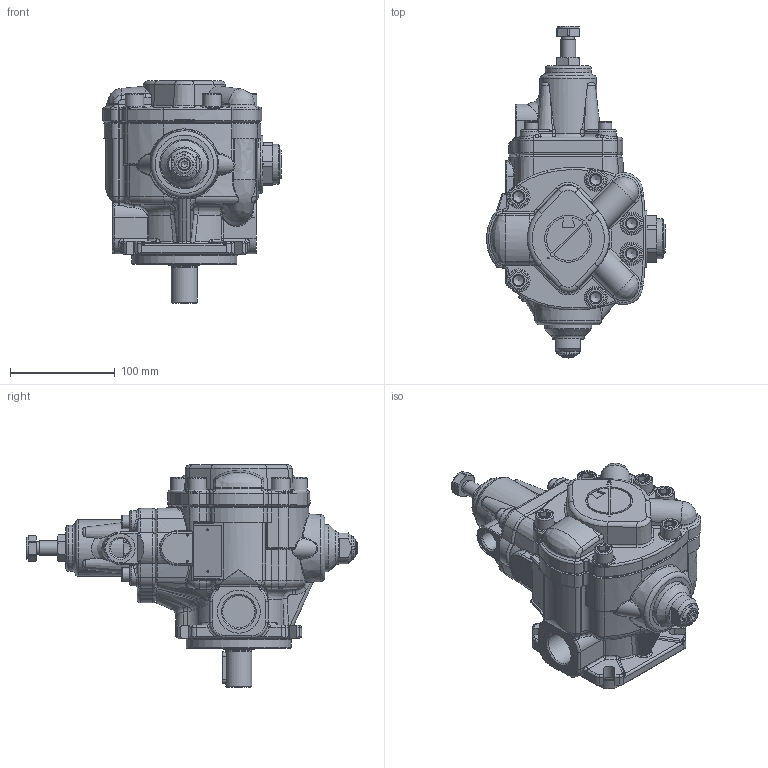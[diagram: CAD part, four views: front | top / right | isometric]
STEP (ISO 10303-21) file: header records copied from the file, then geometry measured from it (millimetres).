
FILE_DESCRIPTION(/* description */ (''),/* implementation_level */ '2;1');
FILE_NAME(/* name */ 'W:\Tecnico\Archivio\Berarma\Dimensioni Pompe\3D Export\Montaggio 3D semplificato\PLP-PHP 1\PLP 1.stp',/* time_stamp */ '2018-10-05T16:55:40+02:00',/* author */ ('marcop'),/* organization */ (''),/* preprocessor_version */ 'ST-DEVELOPER v17',/* originating_system */ 'Autodesk Inventor 2018',/* authorisation */ '');
FILE_SCHEMA (('AUTOMOTIVE_DESIGN { 1 0 10303 214 3 1 1 }'));
Length unit declared in the file: millimetre
Products named in the file (1): PLP-PHP 1_Shrinkwrap_1
Bounding box: 170.45 x 316.7 x 212 mm (x, y, z)
Volume: 2262843.5 mm3; surface area: 261447.5 mm2
Topology: 2 solids, 2 shells, 1632 faces, 4162 edges, 2578 vertices
Faces by surface type: plane 479, cylinder 465, bspline 310, torus 206, cone 148, sphere 24
Full cylindrical faces by diameter (mm): 1.7 x4, 2.5 x3, 8 x1, 10 x1, 12 x3, 13 x4, 14 x2, 15 x1, 15.2 x1, 18 x7, 18.631 x1, 21 x1, 24.5 x2, 25 x1, 28 x1, 28.376 x1, 30 x6, 30.75 x1, 31 x1, 33 x1, 34 x2, 34.2 x1, 38 x2, 38.5 x1, 41 x1, 42 x2, 42.5 x1, 43.376 x1, 44 x2, 44.5 x1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
Entity records: 60720 total; most frequent: CARTESIAN_POINT 21736, ORIENTED_EDGE 8256, DIRECTION 7338, EDGE_CURVE 4128, AXIS2_PLACEMENT_3D 2978, VERTEX_POINT 2578, EDGE_LOOP 1712, STYLED_ITEM 1634
